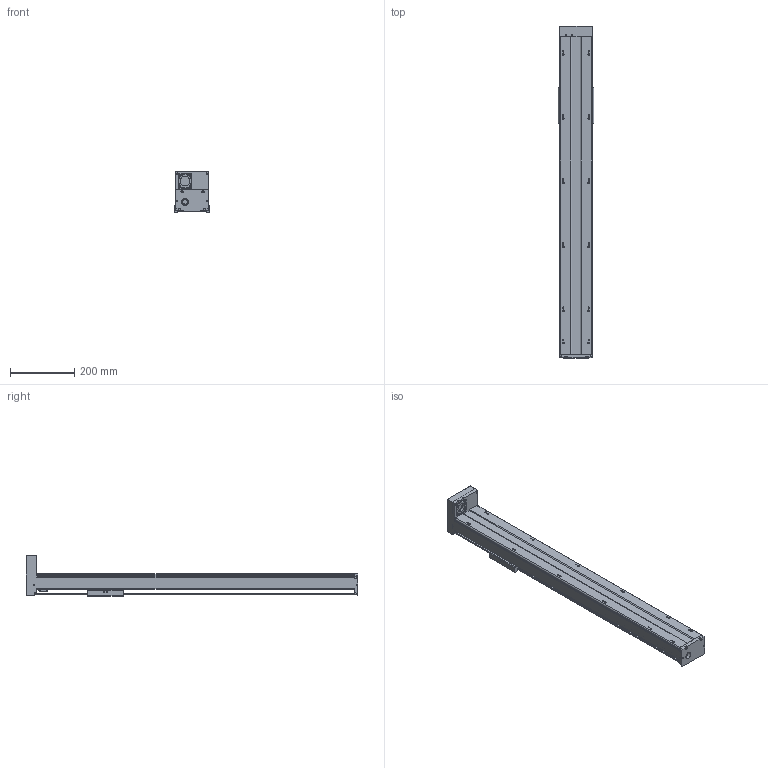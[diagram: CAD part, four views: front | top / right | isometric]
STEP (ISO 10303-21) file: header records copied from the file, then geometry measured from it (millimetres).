
FILE_DESCRIPTION(/* description */ (''),/* implementation_level */ '2;1');
FILE_NAME(/* name */ 'TKA100-FD-800_asm1.stp',/* time_stamp */ '2016-05-16T15:28:31+08:00',/* author */ (''),/* organization */ (''),/* preprocessor_version */ 'ST-DEVELOPER v15',/* originating_system */ 'SIEMENS PLM Software NX 8.5',/* authorisation */ '');
FILE_SCHEMA (('AUTOMOTIVE_DESIGN { 1 0 10303 214 3 1 1 1 }'));
Length unit declared in the file: millimetre
Products named in the file (3): 200-02; 200-01; TKA100-FD-800_asm1
Assembly tree (2 placements, depth 2):
  TKA100-FD-800_asm1
    200-01
    200-02
Bounding box: 110 x 1036 x 127 mm (x, y, z)
Volume: 2187148.2 mm3; surface area: 760733.3 mm2
Topology: 2 solids, 13 shells, 801 faces, 2068 edges, 1344 vertices
Faces by surface type: cylinder 311, plane 301, cone 125, torus 38, bspline 26
Full cylindrical faces by diameter (mm): 2.5 x6, 2.6 x8, 3.3 x10, 3.4 x10, 3.8 x8, 4.2 x21, 4.3 x4, 4.5 x8, 5 x1, 5.5 x22, 6.6 x4, 8 x5, 9 x4, 10 x14, 11 x4, 12 x7, 15.3 x1, 16 x1, 22 x1, 24 x1, 28 x4, 30 x1, 33 x1
Entity records: 28528 total; most frequent: CARTESIAN_POINT 10059, DIRECTION 3858, ORIENTED_EDGE 3484, EDGE_CURVE 1742, AXIS2_PLACEMENT_3D 1548, VERTEX_POINT 1254, EDGE_LOOP 1152, ADVANCED_FACE 801
